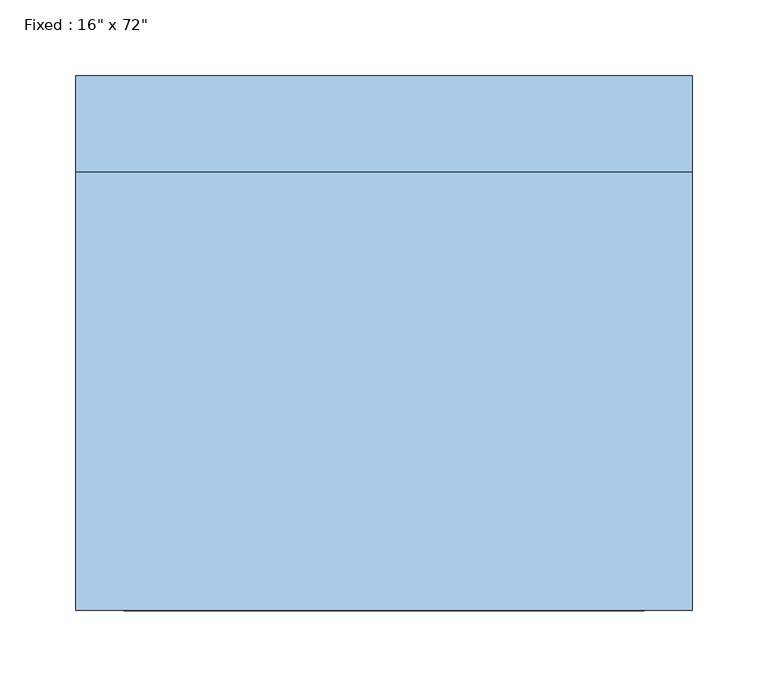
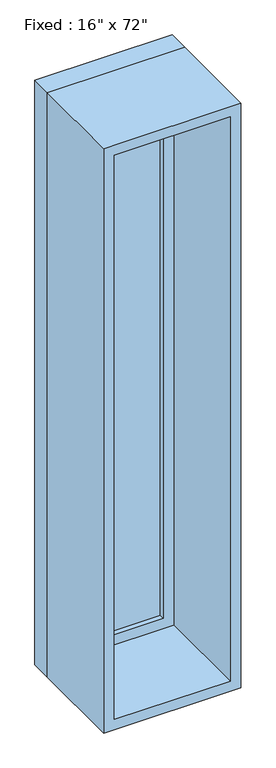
"""IFC4 building model written with IfcOpenShell, lengths in millimetres: window geometry."""

from ifc_helpers import new_model, si_unit, frame, origin, place, context, project, spatial, polyline, outline, extrude, source, transform, mapped, element, save


def window_9e2da525(model_context):
    return source(origin(), model_context, "Body", "SweptSolid", [
        extrude(outline(polyline([(101.6, 128.5875), (-177.8, 128.5875), (-177.8, 141.2875), (101.6, 141.2875), (101.6, 128.5875)])), frame((0.0, 0.0, 368.3), z_axis=(0.0, 0.0, 1.0), x_axis=(1.0, 0.0, 0.0)), (0.0, 0.0, 1.0), 1701.8),
        extrude(outline(polyline([(2114.55, -222.25), (323.85, -222.25), (323.85, 146.05), (2114.55, 146.05), (2114.55, -222.25)]), holes=[polyline([(2070.1, -177.8), (2070.1, 101.6), (368.3, 101.6), (368.3, -177.8), (2070.1, -177.8)])]), frame((0.0, 112.7125, 0.0), z_axis=(0.0, 1.0, 0.0), x_axis=(0.0, 0.0, 1.0)), (0.0, 0.0, 1.0), 44.45),
        extrude(outline(polyline([(2133.6, -241.3), (304.8, -241.3), (304.8, 165.1), (2133.6, 165.1), (2133.6, -241.3)]), holes=[polyline([(2101.85, -209.55), (2101.85, 133.35), (336.55, 133.35), (336.55, -209.55), (2101.85, -209.55)])]), frame((0.0, -176.2125, 0.0), z_axis=(0.0, 1.0, 0.0), x_axis=(0.0, 0.0, 1.0)), (0.0, 0.0, 1.0), 288.925),
        extrude(outline(polyline([(2133.6, 165.1), (2133.6, -241.3), (304.8, -241.3), (304.8, 165.1), (2133.6, 165.1)]), holes=[polyline([(2114.55, 146.05), (323.85, 146.05), (323.85, -222.25), (2114.55, -222.25), (2114.55, 146.05)])]), frame((0.0, 112.7125, 0.0), z_axis=(0.0, 1.0, 0.0), x_axis=(0.0, 0.0, 1.0)), (0.0, 0.0, 1.0), 63.5),
    ])


if __name__ == "__main__":
    model = new_model("IFC4")
    model_context = context("Model", 3, world=origin())
    ifc_project = project(units=[si_unit("LENGTHUNIT", "METRE", prefix="MILLI")], contexts=[model_context])
    site = spatial("IfcSite", under=ifc_project)
    building = spatial("IfcBuilding", under=site)
    placement = place(None, origin())
    window_shape = window_9e2da525(model_context)
    element("IfcWindow", 1, ObjectType="Fixed : 16\" x 72\"", at=placement, inside=building, context=model_context, shape_type="MappedRepresentation", body=[
        mapped(window_shape, transform((0.0, 0.0, 0.0), x_axis=(1.0, 0.0, 0.0), y_axis=(0.0, 1.0, 0.0), z_axis=(0.0, 0.0, 1.0))),
    ])
    save(model, "model.ifc")
